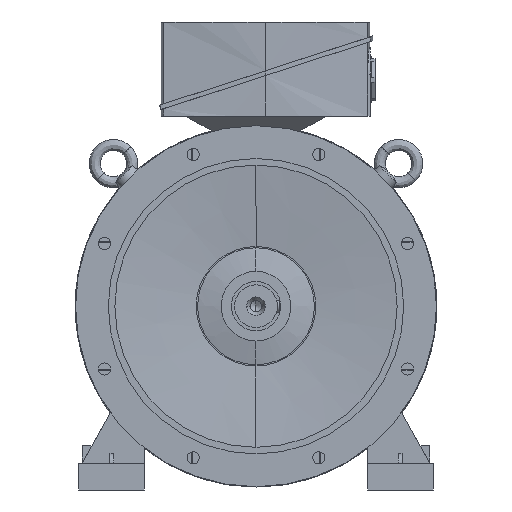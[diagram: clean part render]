
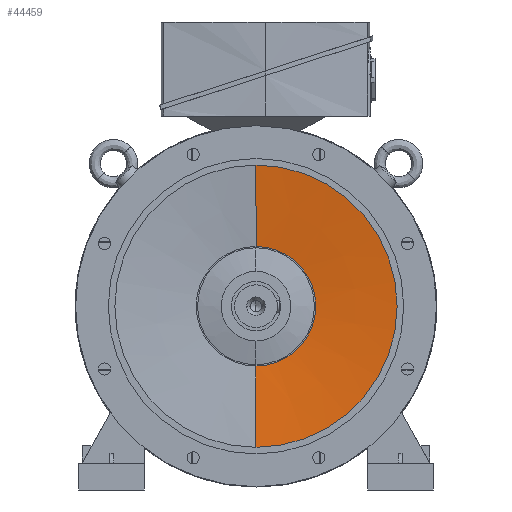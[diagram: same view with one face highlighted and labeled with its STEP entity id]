
A CAD part, left-side view. The second image highlights one B-rep face of the part: STEP entity #44459.
In plain terms, the highlighted conical face has half-angle 83.558 degrees and reference radius 215 mm.
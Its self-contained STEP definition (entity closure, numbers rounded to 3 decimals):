
#639 = CARTESIAN_POINT ( 'NONE',  ( -70., 0., -215. ) ) ;
#3513 = DIRECTION ( 'NONE',  ( 0., 0., 1. ) ) ;
#4247 = EDGE_LOOP ( 'NONE', ( #61323, #42735, #40322, #28216 ) ) ;
#4424 = DIRECTION ( 'NONE',  ( 0., 0., 1. ) ) ;
#4489 = AXIS2_PLACEMENT_3D ( 'NONE', #7724, #7562, #7421 ) ;
#4506 = DIRECTION ( 'NONE',  ( -1., 0., 0. ) ) ;
#4525 = CARTESIAN_POINT ( 'NONE',  ( -56., 0., 0. ) ) ;
#4576 = CARTESIAN_POINT ( 'NONE',  ( -70., 0., 0. ) ) ;
#4665 = DIRECTION ( 'NONE',  ( -1., 0., 0. ) ) ;
#7421 = DIRECTION ( 'NONE',  ( 0., 0., 1. ) ) ;
#7562 = DIRECTION ( 'NONE',  ( -1., 0., 0. ) ) ;
#7724 = CARTESIAN_POINT ( 'NONE',  ( -70., 0., 0. ) ) ;
#15831 = VERTEX_POINT ( 'NONE', #639 ) ;
#20737 = CARTESIAN_POINT ( 'NONE',  ( -56., 0., 91. ) ) ;
#22499 = EDGE_CURVE ( 'NONE', #31998, #15831, #54830, .T. ) ;
#22793 = VECTOR ( 'NONE', #32431, 1000. ) ;
#25989 = AXIS2_PLACEMENT_3D ( 'NONE', #4576, #4665, #3513 ) ;
#26556 = EDGE_CURVE ( 'NONE', #31998, #47414, #59241, .T. ) ;
#28216 = ORIENTED_EDGE ( 'NONE', *, *, #47595, .F. ) ;
#29840 = VECTOR ( 'NONE', #42260, 1000. ) ;
#31998 = VERTEX_POINT ( 'NONE', #64014 ) ;
#32186 = CARTESIAN_POINT ( 'NONE',  ( -70., 0., -215. ) ) ;
#32431 = DIRECTION ( 'NONE',  ( -0.112, 0., -0.994 ) ) ;
#39639 = LINE ( 'NONE', #42761, #29840 ) ;
#40322 = ORIENTED_EDGE ( 'NONE', *, *, #51449, .T. ) ;
#41319 = FACE_OUTER_BOUND ( 'NONE', #4247, .T. ) ;
#42260 = DIRECTION ( 'NONE',  ( -0.112, 0., 0.994 ) ) ;
#42735 = ORIENTED_EDGE ( 'NONE', *, *, #22499, .T. ) ;
#42761 = CARTESIAN_POINT ( 'NONE',  ( -70., 0., 215. ) ) ;
#44459 = ADVANCED_FACE ( 'NONE', ( #41319 ), #65122, .F. ) ;
#47414 = VERTEX_POINT ( 'NONE', #20737 ) ;
#47595 = EDGE_CURVE ( 'NONE', #47414, #55743, #39639, .T. ) ;
#49303 = AXIS2_PLACEMENT_3D ( 'NONE', #4525, #4506, #4424 ) ;
#51449 = EDGE_CURVE ( 'NONE', #15831, #55743, #63312, .T. ) ;
#54247 = CARTESIAN_POINT ( 'NONE',  ( -70., 0., 215. ) ) ;
#54830 = LINE ( 'NONE', #32186, #22793 ) ;
#55743 = VERTEX_POINT ( 'NONE', #54247 ) ;
#59241 = CIRCLE ( 'NONE', #49303, 91. ) ;
#61323 = ORIENTED_EDGE ( 'NONE', *, *, #26556, .F. ) ;
#63312 = CIRCLE ( 'NONE', #4489, 215. ) ;
#64014 = CARTESIAN_POINT ( 'NONE',  ( -56., 0., -91. ) ) ;
#65122 = CONICAL_SURFACE ( 'NONE', #25989, 215., 1.458 ) ;
